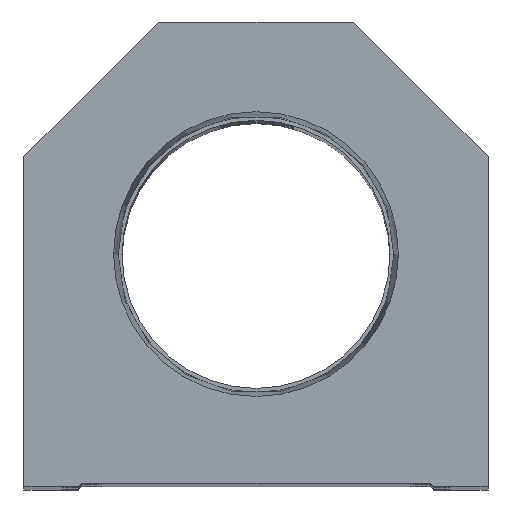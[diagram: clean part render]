
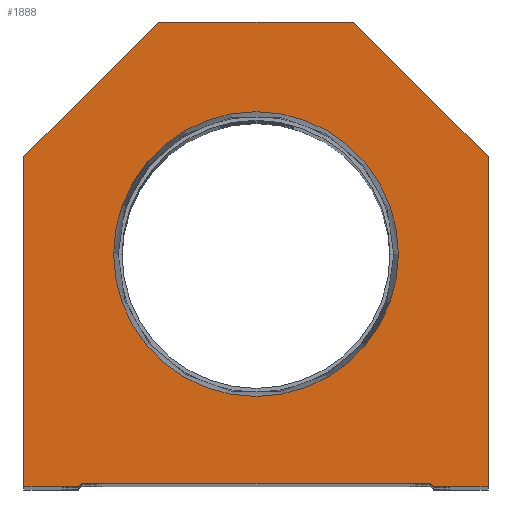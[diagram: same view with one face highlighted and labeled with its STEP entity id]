
A CAD part, top view. The second image highlights one B-rep face of the part: STEP entity #1888.
In plain terms, the highlighted planar face has unit normal (0, 0, 1).
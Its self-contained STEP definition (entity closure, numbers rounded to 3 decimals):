
#126 = VECTOR ( 'NONE', #7851, 1000. ) ;
#132 = LINE ( 'NONE', #8405, #12363 ) ;
#304 = VECTOR ( 'NONE', #14315, 1000. ) ;
#337 = DIRECTION ( 'NONE',  ( -0.707, -0.707, 0. ) ) ;
#590 = CARTESIAN_POINT ( 'NONE',  ( -38.1, 0., 0. ) ) ;
#652 = VERTEX_POINT ( 'NONE', #6394 ) ;
#705 = VERTEX_POINT ( 'NONE', #6930 ) ;
#814 = LINE ( 'NONE', #2320, #17114 ) ;
#817 = VERTEX_POINT ( 'NONE', #10071 ) ;
#933 = VECTOR ( 'NONE', #12785, 1000. ) ;
#1072 = CARTESIAN_POINT ( 'NONE',  ( 38.1, 54.1, 0. ) ) ;
#1152 = LINE ( 'NONE', #6437, #126 ) ;
#1493 = DIRECTION ( 'NONE',  ( -0.707, 0.707, 0. ) ) ;
#1888 = ADVANCED_FACE ( 'NONE', ( #6681, #5272 ), #16021, .T. ) ;
#2218 = CARTESIAN_POINT ( 'NONE',  ( 16., 76.2, 0. ) ) ;
#2320 = CARTESIAN_POINT ( 'NONE',  ( -28.6, 0.5, 0. ) ) ;
#2557 = ORIENTED_EDGE ( 'NONE', *, *, #11066, .T. ) ;
#2642 = EDGE_CURVE ( 'NONE', #4529, #5592, #3471, .T. ) ;
#3471 = LINE ( 'NONE', #14051, #10263 ) ;
#3566 = DIRECTION ( 'NONE',  ( 1., 0., 0. ) ) ;
#4254 = ORIENTED_EDGE ( 'NONE', *, *, #14899, .T. ) ;
#4529 = VERTEX_POINT ( 'NONE', #8840 ) ;
#4558 = LINE ( 'NONE', #11345, #14417 ) ;
#4630 = DIRECTION ( 'NONE',  ( 1., 0., 0. ) ) ;
#4806 = VERTEX_POINT ( 'NONE', #15188 ) ;
#4948 = ORIENTED_EDGE ( 'NONE', *, *, #2642, .T. ) ;
#5091 = AXIS2_PLACEMENT_3D ( 'NONE', #11051, #16527, #16783 ) ;
#5109 = ORIENTED_EDGE ( 'NONE', *, *, #8176, .T. ) ;
#5128 = ORIENTED_EDGE ( 'NONE', *, *, #16875, .T. ) ;
#5195 = ORIENTED_EDGE ( 'NONE', *, *, #14555, .F. ) ;
#5198 = LINE ( 'NONE', #10640, #12210 ) ;
#5272 = FACE_OUTER_BOUND ( 'NONE', #16243, .T. ) ;
#5278 = ORIENTED_EDGE ( 'NONE', *, *, #6754, .T. ) ;
#5526 = ORIENTED_EDGE ( 'NONE', *, *, #15351, .T. ) ;
#5592 = VERTEX_POINT ( 'NONE', #13069 ) ;
#5658 = DIRECTION ( 'NONE',  ( 1., 0., 0. ) ) ;
#5785 = CARTESIAN_POINT ( 'NONE',  ( -38.1, 54.1, 0. ) ) ;
#5932 = DIRECTION ( 'NONE',  ( 0., 0., 1. ) ) ;
#5960 = DIRECTION ( 'NONE',  ( 0., -1., 0. ) ) ;
#6089 = ORIENTED_EDGE ( 'NONE', *, *, #6884, .T. ) ;
#6394 = CARTESIAN_POINT ( 'NONE',  ( -28.6, 0.5, 0. ) ) ;
#6437 = CARTESIAN_POINT ( 'NONE',  ( 28.6, 0., 0. ) ) ;
#6681 = FACE_BOUND ( 'NONE', #7538, .T. ) ;
#6754 = EDGE_CURVE ( 'NONE', #8853, #15039, #4558, .T. ) ;
#6884 = EDGE_CURVE ( 'NONE', #705, #12313, #10271, .T. ) ;
#6930 = CARTESIAN_POINT ( 'NONE',  ( 38.1, 0., 0. ) ) ;
#7087 = CARTESIAN_POINT ( 'NONE',  ( 16., 76.2, 0. ) ) ;
#7184 = CARTESIAN_POINT ( 'NONE',  ( 0., 38.1, 0. ) ) ;
#7538 = EDGE_LOOP ( 'NONE', ( #14068, #5195 ) ) ;
#7598 = DIRECTION ( 'NONE',  ( 0.707, -0.707, 0. ) ) ;
#7643 = CARTESIAN_POINT ( 'NONE',  ( 38.1, 0., 0. ) ) ;
#7731 = AXIS2_PLACEMENT_3D ( 'NONE', #10627, #13670, #16381 ) ;
#7851 = DIRECTION ( 'NONE',  ( 1., 0., 0. ) ) ;
#8176 = EDGE_CURVE ( 'NONE', #817, #652, #8804, .T. ) ;
#8405 = CARTESIAN_POINT ( 'NONE',  ( -28.6, 0., 0. ) ) ;
#8471 = CIRCLE ( 'NONE', #5091, 23.374 ) ;
#8804 = LINE ( 'NONE', #16573, #933 ) ;
#8840 = CARTESIAN_POINT ( 'NONE',  ( 28.6, 0.5, 0. ) ) ;
#8850 = VECTOR ( 'NONE', #5960, 1000. ) ;
#8853 = VERTEX_POINT ( 'NONE', #17185 ) ;
#9557 = CARTESIAN_POINT ( 'NONE',  ( 23.374, 38.1, 0. ) ) ;
#9603 = EDGE_CURVE ( 'NONE', #12313, #16537, #5198, .T. ) ;
#10013 = LINE ( 'NONE', #590, #8850 ) ;
#10071 = CARTESIAN_POINT ( 'NONE',  ( -29.1, 0., 0. ) ) ;
#10133 = LINE ( 'NONE', #2218, #304 ) ;
#10263 = VECTOR ( 'NONE', #7598, 1000. ) ;
#10271 = LINE ( 'NONE', #7643, #15261 ) ;
#10627 = CARTESIAN_POINT ( 'NONE',  ( 0., 0., 0. ) ) ;
#10640 = CARTESIAN_POINT ( 'NONE',  ( 38.1, 54.1, 0. ) ) ;
#10835 = ORIENTED_EDGE ( 'NONE', *, *, #12315, .T. ) ;
#11051 = CARTESIAN_POINT ( 'NONE',  ( 0., 38.1, 0. ) ) ;
#11066 = EDGE_CURVE ( 'NONE', #15039, #4806, #10013, .T. ) ;
#11345 = CARTESIAN_POINT ( 'NONE',  ( -38.1, 54.1, 0. ) ) ;
#11347 = CARTESIAN_POINT ( 'NONE',  ( -23.374, 38.1, 0. ) ) ;
#12210 = VECTOR ( 'NONE', #1493, 1000. ) ;
#12313 = VERTEX_POINT ( 'NONE', #1072 ) ;
#12315 = EDGE_CURVE ( 'NONE', #5592, #705, #1152, .T. ) ;
#12363 = VECTOR ( 'NONE', #5658, 1000. ) ;
#12785 = DIRECTION ( 'NONE',  ( 0.707, 0.707, 0. ) ) ;
#13037 = DIRECTION ( 'NONE',  ( 0., 1., 0. ) ) ;
#13069 = CARTESIAN_POINT ( 'NONE',  ( 29.1, 0., 0. ) ) ;
#13670 = DIRECTION ( 'NONE',  ( 0., 0., 1. ) ) ;
#14051 = CARTESIAN_POINT ( 'NONE',  ( 14.55, 14.55, 0. ) ) ;
#14068 = ORIENTED_EDGE ( 'NONE', *, *, #17264, .F. ) ;
#14311 = CIRCLE ( 'NONE', #15704, 23.374 ) ;
#14315 = DIRECTION ( 'NONE',  ( -1., 0., 0. ) ) ;
#14323 = VERTEX_POINT ( 'NONE', #11347 ) ;
#14417 = VECTOR ( 'NONE', #337, 1000. ) ;
#14555 = EDGE_CURVE ( 'NONE', #14323, #15243, #14311, .T. ) ;
#14899 = EDGE_CURVE ( 'NONE', #652, #4529, #814, .T. ) ;
#15039 = VERTEX_POINT ( 'NONE', #5785 ) ;
#15188 = CARTESIAN_POINT ( 'NONE',  ( -38.1, 0., 0. ) ) ;
#15243 = VERTEX_POINT ( 'NONE', #9557 ) ;
#15261 = VECTOR ( 'NONE', #13037, 1000. ) ;
#15351 = EDGE_CURVE ( 'NONE', #4806, #817, #132, .T. ) ;
#15704 = AXIS2_PLACEMENT_3D ( 'NONE', #7184, #5932, #4630 ) ;
#16021 = PLANE ( 'NONE',  #7731 ) ;
#16243 = EDGE_LOOP ( 'NONE', ( #5526, #5109, #4254, #4948, #10835, #6089, #16343, #5128, #5278, #2557 ) ) ;
#16343 = ORIENTED_EDGE ( 'NONE', *, *, #9603, .T. ) ;
#16381 = DIRECTION ( 'NONE',  ( 1., 0., 0. ) ) ;
#16527 = DIRECTION ( 'NONE',  ( 0., 0., 1. ) ) ;
#16537 = VERTEX_POINT ( 'NONE', #7087 ) ;
#16573 = CARTESIAN_POINT ( 'NONE',  ( -14.55, 14.55, 0. ) ) ;
#16783 = DIRECTION ( 'NONE',  ( 1., 0., 0. ) ) ;
#16875 = EDGE_CURVE ( 'NONE', #16537, #8853, #10133, .T. ) ;
#17114 = VECTOR ( 'NONE', #3566, 1000. ) ;
#17185 = CARTESIAN_POINT ( 'NONE',  ( -16., 76.2, 0. ) ) ;
#17264 = EDGE_CURVE ( 'NONE', #15243, #14323, #8471, .T. ) ;
